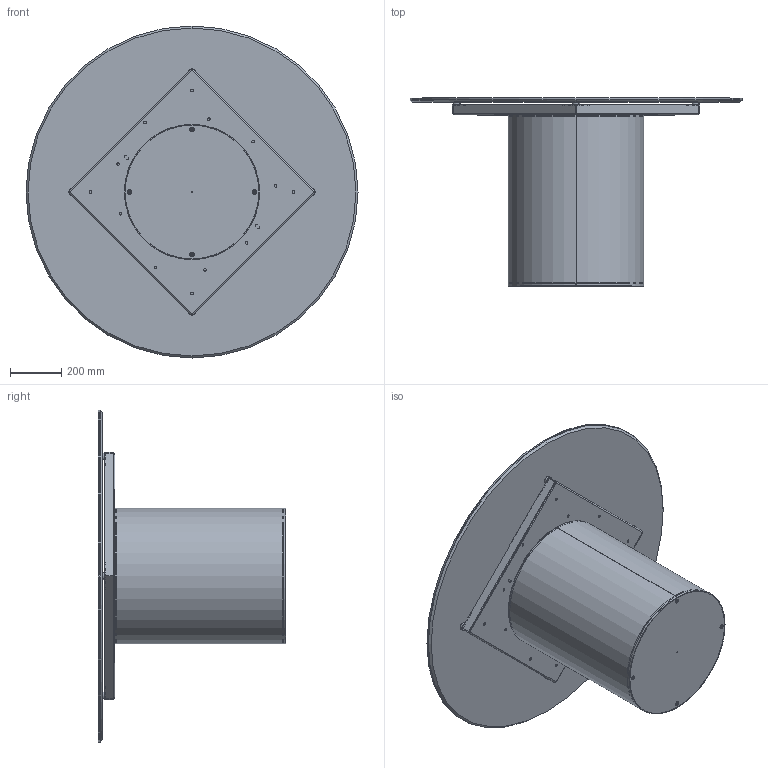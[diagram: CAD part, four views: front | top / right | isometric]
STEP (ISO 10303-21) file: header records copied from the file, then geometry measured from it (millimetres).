
FILE_DESCRIPTION (( 'STEP AP203' ), '1' );
FILE_NAME ('CI05C.STEP', '2024-08-08T06:58:16', ( '' ), ( '' ), 'SwSTEP 2.0', 'SolidWorks 2022', '' );
FILE_SCHEMA (( 'CONFIG_CONTROL_DESIGN' ));
Length unit declared in the file: millimetre
Products named in the file (11): COLLO TELAIO UNIVERSALE TTAV0801 CON FERRAMENTA_MTG TOP CRISTALLO VERNICIATO-CERAMICA; C2B000000-03-CILINDRO BASE D.530mm_Normale; CI05C; M8xXXmm_hex_M8X20mm; K1XCMXX-00-Piani Rotondi in ceramica_D.1300; 434070-00-PIEDINO TPV GOMMA NERO D. 30x8max18_filo estetico; TTAV0801-02-TELAIO UNIVERSALE TONDO-VASSOIO; TTAV0801-02-TELAIO UNIVERSALE TONDO; C2B000000_02-01-ZAVORRA IN FERRO D.530mm; TTAV0801 TELAIO UNIVERSALE TONDO-PIASTRINA; C2B000000_01-00-struttura cilindro D.530mm
Assembly tree (19 placements, depth 4):
  CI05C
    C2B000000-03-CILINDRO BASE D.530mm_Normale
      C2B000000_01-00-struttura cilindro D.530mm
      C2B000000_02-01-ZAVORRA IN FERRO D.530mm
      M8xXXmm_hex_M8X20mm  x4
    COLLO TELAIO UNIVERSALE TTAV0801 CON FERRAMENTA_MTG TOP CRISTALLO VERNICIATO-CERAMICA
      TTAV0801-02-TELAIO UNIVERSALE TONDO
        TTAV0801-02-TELAIO UNIVERSALE TONDO-VASSOIO
        TTAV0801 TELAIO UNIVERSALE TONDO-PIASTRINA  x4
      434070-00-PIEDINO TPV GOMMA NERO D. 30x8max18_filo estetico  x4
    K1XCMXX-00-Piani Rotondi in ceramica_D.1300
Bounding box: 1300 x 736 x 1300 mm (x, y, z)
Volume: 28428342.3 mm3; surface area: 9499585.6 mm2
Topology: 24 solids, 24 shells, 710 faces, 1786 edges, 1116 vertices
Faces by surface type: plane 334, cylinder 304, cone 34, torus 24, sphere 14
Entity records: 15582 total; most frequent: DIRECTION 2601, CARTESIAN_POINT 2408, ORIENTED_EDGE 2358, EDGE_CURVE 1179, AXIS2_PLACEMENT_3D 942, VERTEX_POINT 749, VECTOR 717, LINE 717
